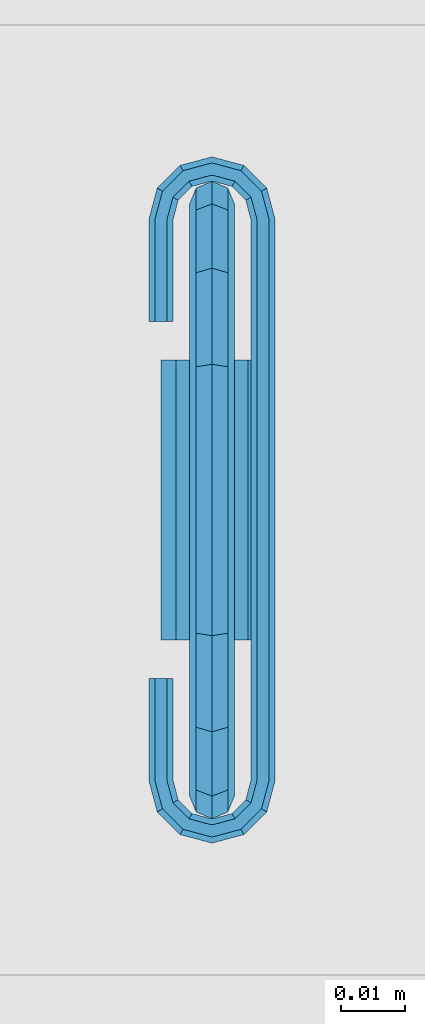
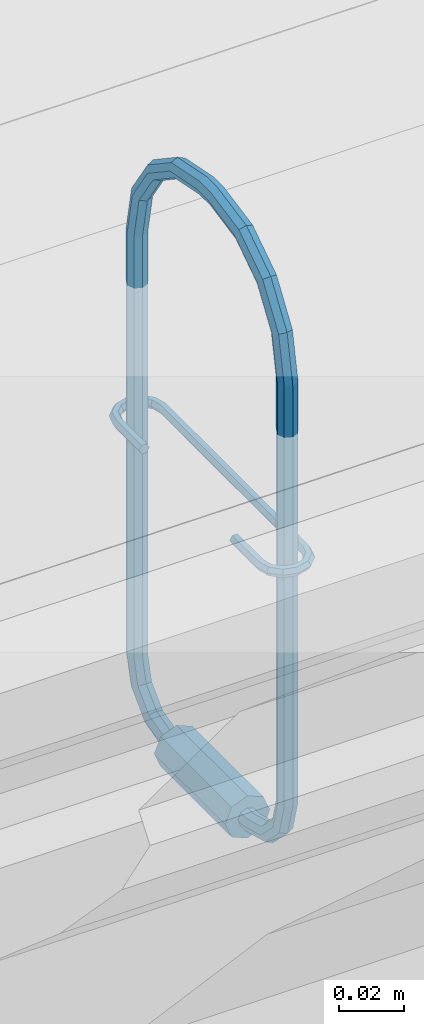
# One storey, part 169 of 230: 1 beam.
"""IFC4X3_ADD2 building model written with IfcOpenShell, lengths in millimetres."""

import ifcopenshell
import ifcopenshell.guid

model = None  # the IFC model being written
_history = None  # IfcOwnerHistory: only IFC2X3 demands one
_inside = {}  # id of a spatial element -> (the spatial element, [elements in it])
_under = {}  # id of a project, library or spatial element -> (it, [spatial elements below it])
_declared = {}  # id of a project -> (the project, [libraries it declares])
_typed = {}  # id of a type object -> (the type object, [elements of that type])
_made_of = {}  # id of a material, layer set ... -> (it, [elements and type objects made of it])


def new_model(schema):
    """Start an empty IFC model of exactly this schema.

    Asked for "IFC4X3", IfcOpenShell would pick the latest addendum, in which some entities
    have other attributes; the version numbers below select the first issue.
    IFC2X3 requires an IfcOwnerHistory on every rooted entity: one is made here for all.
    """
    global model, _history
    if schema == "IFC4X3":
        model = ifcopenshell.file(schema_version=(4, 3, 0, 0))
    else:
        model = ifcopenshell.file(schema=schema)
    _inside.clear()
    _under.clear()
    _declared.clear()
    _typed.clear()
    _made_of.clear()
    _history = None
    if model.schema == "IFC2X3":
        org = make("IfcOrganization", Name="unknown")
        user = make(
            "IfcPersonAndOrganization",
            ThePerson=make("IfcPerson", FamilyName="unknown"),
            TheOrganization=org,
        )
        app = make(
            "IfcApplication",
            ApplicationDeveloper=org,
            Version="unknown",
            ApplicationFullName="unknown",
            ApplicationIdentifier="unknown",
        )
        _history = make(
            "IfcOwnerHistory",
            OwningUser=user,
            OwningApplication=app,
            ChangeAction="ADDED",
            CreationDate=0,
        )
    return model


def make(cls, **values):
    """One entity of the class cls with the attributes given. An attribute that is None is left unset."""
    return model.create_entity(
        cls, **{name: value for name, value in values.items() if value is not None}
    )


def rooted(cls, **values):
    """An entity with a GlobalId (a new one), such as an element, a storey or a relation."""
    return make(cls, GlobalId=ifcopenshell.guid.new(), OwnerHistory=_history, **values)


def si_unit(unit_type, name, prefix=None):
    """IfcSIUnit, for example si_unit("LENGTHUNIT", "METRE", prefix="MILLI")."""
    return make("IfcSIUnit", UnitType=unit_type, Prefix=prefix, Name=name)


def assignment(units):
    """IfcUnitAssignment: the units of a project."""
    return None if units is None else make("IfcUnitAssignment", Units=units)


def point(xyz):
    """IfcCartesianPoint."""
    return None if xyz is None else make("IfcCartesianPoint", Coordinates=xyz)


def direction(xyz):
    """IfcDirection."""
    return None if xyz is None else make("IfcDirection", DirectionRatios=xyz)


def frame(location, z_axis=None, x_axis=None):
    """IfcAxis2Placement3D, a coordinate frame: its origin and axes. An axis left out is left unset."""
    return make(
        "IfcAxis2Placement3D",
        Location=point(location),
        Axis=direction(z_axis),
        RefDirection=direction(x_axis),
    )


def origin_with_axes():
    """The frame at (0, 0, 0) with the z axis (0, 0, 1) and the x axis (1, 0, 0) written out."""
    return frame((0.0, 0.0, 0.0), z_axis=(0.0, 0.0, 1.0), x_axis=(1.0, 0.0, 0.0))


def place(relative_to, where):
    """IfcLocalPlacement: puts the frame where relative to a parent placement (None: the world)."""
    return make(
        "IfcLocalPlacement", PlacementRelTo=relative_to, RelativePlacement=where
    )


def context(
    kind, dimensions, precision=None, world=None, true_north=None, identifier=None
):
    """IfcGeometricRepresentationContext, for example the 3D "Model" context."""
    return make(
        "IfcGeometricRepresentationContext",
        ContextIdentifier=identifier,
        ContextType=kind,
        CoordinateSpaceDimension=dimensions,
        Precision=precision,
        WorldCoordinateSystem=world,
        TrueNorth=true_north,
    )


def subcontext(parent, identifier, kind, view, scale=None):
    """IfcGeometricRepresentationSubContext, for example "Body" below "Model"."""
    return make(
        "IfcGeometricRepresentationSubContext",
        ContextIdentifier=identifier,
        ContextType=kind,
        ParentContext=parent,
        TargetScale=scale,
        TargetView=view,
    )


def project(units=None, contexts=None):
    """IfcProject with its units and contexts."""
    return rooted(
        "IfcProject",
        Name="project",
        RepresentationContexts=contexts,
        UnitsInContext=assignment(units),
    )


def spatial(cls, under=None, at=None, **own):
    """A site, building, storey or space (cls), placed at a placement, below another one or the project."""
    s = rooted(cls, ObjectPlacement=at, **own)
    if under is not None:
        _under.setdefault(under.id(), (under, []))[1].append(s)
    return s


def point_list(points):
    """IfcCartesianPointList2D or 3D."""
    cls = (
        "IfcCartesianPointList2D" if len(points[0]) == 2 else "IfcCartesianPointList3D"
    )
    return make(cls, CoordList=points)


def triangles(points, corners, closed=None, point_numbers=None):
    """IfcTriangulatedFaceSet: each triangle names its three corners, points numbered from 1."""
    return make(
        "IfcTriangulatedFaceSet",
        Coordinates=point_list(points),
        Closed=closed,
        CoordIndex=corners,
        PnIndex=point_numbers,
    )


def shape(context_of_items, identifier, shape_type, items):
    """IfcShapeRepresentation: the items that make up one representation, for example the "Body"."""
    return make(
        "IfcShapeRepresentation",
        ContextOfItems=context_of_items,
        RepresentationIdentifier=identifier,
        RepresentationType=shape_type,
        Items=items,
    )


def made_of(thing, what):
    """Note that an element or type object is made of a material, layer set ...; save() writes the relation."""
    if what is not None:
        _made_of.setdefault(what.id(), (what, []))[1].append(thing)
    return thing


def element(
    cls,
    number,
    at=None,
    inside=None,
    cuts=None,
    type_object=None,
    material=None,
    context=None,
    identifier="Body",
    shape_type=None,
    held_by="IfcProductDefinitionShape",
    body=None,
    shapes=None,
    **own,
):
    """One element of the class cls, such as IfcWall. Its Tag is "e" and its number.

    at: its placement. inside: the storey or other place that contains it. cuts: it is an
    opening in that element (IfcRelVoidsElement). A single representation is given by context,
    identifier, shape_type and body (its items); several are given by shapes. held_by: the class
    of the entity that holds the representations. save() writes the other relations.
    """
    e = rooted(cls, Tag="e%d" % number, ObjectPlacement=at, **own)
    if body is not None:
        shapes = [shape(context, identifier, shape_type, body)]
    if shapes is not None:
        e.Representation = make(held_by, Representations=shapes)
    if inside is not None:
        _inside.setdefault(inside.id(), (inside, []))[1].append(e)
    if cuts is not None:
        rooted(
            "IfcRelVoidsElement", RelatingBuildingElement=cuts, RelatedOpeningElement=e
        )
    if type_object is not None:
        _typed.setdefault(type_object.id(), (type_object, []))[1].append(e)
    return made_of(e, material)


def aggregate(whole, parts):
    """IfcRelAggregates: a whole, such as a stair, and the parts it consists of."""
    return rooted("IfcRelAggregates", RelatingObject=whole, RelatedObjects=parts)


def save(model, path):
    """Write the relations noted so far, then the file.

    IfcRelAggregates (storeys below a building ...), IfcRelContainedInSpatialStructure (elements
    in a storey), IfcRelDefinesByType, IfcRelAssociatesMaterial and IfcRelDeclares: one each for
    every whole, place, type object, material and project.
    """
    for whole, parts in _under.values():
        aggregate(whole, parts)
    for where, things in _inside.values():
        rooted(
            "IfcRelContainedInSpatialStructure",
            RelatedElements=things,
            RelatingStructure=where,
        )
    for kind, things in _typed.values():
        rooted("IfcRelDefinesByType", RelatedObjects=things, RelatingType=kind)
    for what, things in _made_of.values():
        rooted("IfcRelAssociatesMaterial", RelatedObjects=things, RelatingMaterial=what)
    for by, libraries in _declared.values():
        rooted("IfcRelDeclares", RelatingContext=by, RelatedDefinitions=libraries)
    model.write(path)


model = new_model("IFC4X3_ADD2")

# Units and contexts
model_context = context("Model", 3, precision=1e-05, world=origin_with_axes(), true_north=direction((0.0, 1.0)))
body_context = subcontext(model_context, "Body", "Model", "MODEL_VIEW")
ifc_project = project(units=[si_unit("LENGTHUNIT", "METRE", prefix="MILLI"), si_unit("AREAUNIT", "SQUARE_METRE"), si_unit("VOLUMEUNIT", "CUBIC_METRE"), si_unit("PLANEANGLEUNIT", "RADIAN"), si_unit("TIMEUNIT", "SECOND"), si_unit("MASSUNIT", "GRAM")], contexts=[model_context])

# Site, building, storey
site_placement = place(None, origin_with_axes())
site = spatial("IfcSite", under=ifc_project, at=site_placement, Name="Site", CompositionType="ELEMENT")
building_placement = place(site_placement, origin_with_axes())
building = spatial("IfcBuilding", under=site, at=building_placement, Name="IFC Building Story")
storey_placement = place(building_placement, origin_with_axes())
storey = spatial("IfcBuildingStorey", under=building, at=storey_placement, Name="ETAGE 00 (0)", Elevation=0.0)

# Beam
beam_placement = place(storey_placement, origin_with_axes())
element("IfcBeam", 1, at=beam_placement, inside=storey, Name="LU2", ObjectType="D7", context=body_context, shape_type="Tessellation", body=[
    triangles([(39353.16536865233, -1404.499736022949, 4036.025157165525), (39353.16536865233, -1407.999813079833, 4036.025157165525), (39350.6911010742, -1404.499736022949, 4034.999929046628), (39350.6911010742, -1407.999813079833, 4034.999929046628), (39354.1932128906, -1404.499736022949, 4038.500006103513), (39354.1932128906, -1407.999813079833, 4038.500006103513), (39353.16536865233, -1407.999813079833, 4040.974855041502), (39353.16536865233, -1404.499736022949, 4040.974855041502), (39350.6911010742, -1407.999813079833, 4042.000083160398), (39350.6911010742, -1404.499736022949, 4042.000083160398), (39348.21683349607, -1407.999813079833, 4040.974855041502), (39348.21683349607, -1404.499736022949, 4040.974855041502), (39347.1936401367, -1407.999813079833, 4038.500006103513), (39347.1936401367, -1404.499736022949, 4038.500006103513), (39348.21683349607, -1404.499736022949, 4036.025157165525), (39348.21683349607, -1407.999813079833, 4036.025157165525), (39350.6911010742, -1392.249757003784, 4038.282286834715), (39348.21683349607, -1392.762371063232, 4039.170023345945), (39350.6911010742, -1383.282135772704, 4047.250053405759), (39348.21683349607, -1384.169872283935, 4047.762522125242), (39353.16536865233, -1384.169872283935, 4047.762522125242), (39353.16536865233, -1392.762371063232, 4039.170023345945), (39354.1932128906, -1386.313200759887, 4048.999946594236), (39354.1932128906, -1393.999795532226, 4041.313497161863), (39353.16536865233, -1395.23722000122, 4043.456680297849), (39353.16536865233, -1388.456529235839, 4050.237371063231), (39350.6911010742, -1395.749688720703, 4044.34441680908), (39350.6911010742, -1389.34426574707, 4050.750130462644), (39348.21683349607, -1388.456529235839, 4050.237371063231), (39348.21683349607, -1395.23722000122, 4043.456680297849), (39347.1936401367, -1386.313200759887, 4048.999946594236), (39347.1936401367, -1393.999795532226, 4041.313497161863), (39348.21683349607, -1381.024860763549, 4059.499887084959), (39347.1936401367, -1383.499709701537, 4059.499887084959), (39350.6911010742, -1379.999777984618, 4059.499887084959), (39353.16536865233, -1381.024860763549, 4059.499887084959), (39354.1932128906, -1383.499709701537, 4059.499887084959), (39353.16536865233, -1385.974558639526, 4059.499887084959), (39350.6911010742, -1386.999786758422, 4059.499887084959), (39348.21683349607, -1385.974558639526, 4059.499887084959), (39348.21683349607, -1385.974558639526, 4218.50006561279), (39347.1936401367, -1383.499709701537, 4218.50006561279), (39348.21683349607, -1389.059399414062, 4234.008421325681), (39347.1936401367, -1386.772911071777, 4234.955456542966), (39348.21683349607, -1397.844182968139, 4247.155583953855), (39347.1936401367, -1396.094144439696, 4248.905477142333), (39348.21683349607, -1394.344105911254, 4250.65566101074), (39348.21683349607, -1384.486422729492, 4235.902491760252), (39350.6911010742, -1393.619295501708, 4251.38032608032), (39350.6911010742, -1383.539387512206, 4236.294909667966), (39353.16536865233, -1394.344105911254, 4250.65566101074), (39353.16536865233, -1384.486422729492, 4235.902491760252), (39354.1932128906, -1396.094144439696, 4248.905477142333), (39354.1932128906, -1386.772911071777, 4234.955456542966), (39353.16536865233, -1389.059399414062, 4234.008421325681), (39353.16536865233, -1397.844182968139, 4247.155583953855), (39350.6911010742, -1390.006579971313, 4233.616003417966), (39350.6911010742, -1398.568993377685, 4246.430628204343), (39350.6911010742, -1411.383763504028, 4254.993186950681), (39348.21683349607, -1410.991490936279, 4255.940222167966), (39347.1936401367, -1410.044310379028, 4258.226710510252), (39348.21683349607, -1409.097275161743, 4260.513198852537), (39350.6911010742, -1408.705002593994, 4261.460524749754), (39353.16536865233, -1409.097275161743, 4260.513198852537), (39354.1932128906, -1410.044310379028, 4258.226710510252), (39353.16536865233, -1410.991490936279, 4255.940222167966), (39353.16536865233, -1426.499701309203, 4259.025208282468), (39350.6911010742, -1426.499701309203, 4257.999980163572), (39348.21683349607, -1426.499701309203, 4259.025208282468), (39347.1936401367, -1426.499701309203, 4261.500057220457), (39348.21683349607, -1426.499701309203, 4263.974906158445), (39350.6911010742, -1426.499701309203, 4265.000134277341), (39353.16536865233, -1426.499701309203, 4263.974906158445), (39354.1932128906, -1426.499701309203, 4261.500057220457), (39354.1932128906, -1433.499710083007, 4261.500057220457), (39353.16536865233, -1433.499710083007, 4259.025208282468), (39354.1932128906, -1449.955101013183, 4258.226710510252), (39353.16536865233, -1449.008065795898, 4255.940222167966), (39354.1932128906, -1463.90541229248, 4248.905477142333), (39353.16536865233, -1462.155373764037, 4247.155583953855), (39350.6911010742, -1448.615793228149, 4254.993186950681), (39350.6911010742, -1461.430418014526, 4246.430628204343), (39348.21683349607, -1462.155373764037, 4247.155583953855), (39348.21683349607, -1449.008065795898, 4255.940222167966), (39347.1936401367, -1463.90541229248, 4248.905477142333), (39347.1936401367, -1449.955101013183, 4258.226710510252), (39348.21683349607, -1465.655305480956, 4250.65566101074), (39348.21683349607, -1450.902281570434, 4260.513198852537), (39350.6911010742, -1466.380261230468, 4251.38032608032), (39350.6911010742, -1451.294554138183, 4261.460524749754), (39353.16536865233, -1465.655305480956, 4250.65566101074), (39353.16536865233, -1450.902281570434, 4260.513198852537), (39354.1932128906, -1473.226500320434, 4234.955456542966), (39353.16536865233, -1475.512988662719, 4235.902491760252), (39353.16536865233, -1470.940157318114, 4234.008421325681), (39350.6911010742, -1469.992976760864, 4233.616003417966), (39348.21683349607, -1470.940157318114, 4234.008421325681), (39347.1936401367, -1473.226500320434, 4234.955456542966), (39348.21683349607, -1475.512988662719, 4235.902491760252), (39350.6911010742, -1476.46016921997, 4236.294909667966), (39353.16536865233, -1478.974695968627, 4218.50006561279), (39350.6911010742, -1479.999778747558, 4218.50006561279), (39354.1932128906, -1476.499701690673, 4218.50006561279), (39353.16536865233, -1474.024852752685, 4218.50006561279), (39350.6911010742, -1472.999769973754, 4218.50006561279), (39348.21683349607, -1474.024852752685, 4218.50006561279), (39347.1936401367, -1476.499701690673, 4218.50006561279), (39348.21683349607, -1478.974695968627, 4218.50006561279), (39350.6911010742, -1479.999778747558, 4059.499887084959), (39348.21683349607, -1478.974695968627, 4059.499887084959), (39350.6911010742, -1476.717420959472, 4047.250053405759), (39348.21683349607, -1475.829539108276, 4047.762522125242), (39350.6911010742, -1467.749799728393, 4038.282286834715), (39348.21683349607, -1467.237185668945, 4039.170023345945), (39353.16536865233, -1467.237185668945, 4039.170023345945), (39353.16536865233, -1475.829539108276, 4047.762522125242), (39354.1932128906, -1465.999761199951, 4041.313497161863), (39354.1932128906, -1473.686355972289, 4048.999946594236), (39353.16536865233, -1471.543027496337, 4050.237371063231), (39353.16536865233, -1464.762336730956, 4043.456680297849), (39350.6911010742, -1470.655145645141, 4050.750130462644), (39350.6911010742, -1464.249722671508, 4044.34441680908), (39348.21683349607, -1464.762336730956, 4043.456680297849), (39348.21683349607, -1471.543027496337, 4050.237371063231), (39347.1936401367, -1465.999761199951, 4041.313497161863), (39347.1936401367, -1473.686355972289, 4048.999946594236), (39348.21683349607, -1455.499820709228, 4036.025157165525), (39347.1936401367, -1455.499820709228, 4038.500006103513), (39350.6911010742, -1455.499820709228, 4034.999929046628), (39353.16536865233, -1455.499820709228, 4036.025157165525), (39354.1932128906, -1455.499820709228, 4038.500006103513), (39353.16536865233, -1455.499820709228, 4040.974855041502), (39350.6911010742, -1455.499820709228, 4042.000083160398), (39348.21683349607, -1455.499820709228, 4040.974855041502), (39348.21683349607, -1451.999743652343, 4040.974855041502), (39347.1936401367, -1451.999743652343, 4038.500006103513), (39350.6911010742, -1451.999743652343, 4042.000083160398), (39353.16536865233, -1451.999743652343, 4040.974855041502), (39354.1932128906, -1451.999743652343, 4038.500006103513), (39353.16536865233, -1451.999743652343, 4036.025157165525), (39350.6911010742, -1451.999743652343, 4034.999929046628), (39348.21683349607, -1451.999743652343, 4036.025157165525), (39358.69061279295, -1451.999743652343, 4038.500006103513), (39350.6911010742, -1451.999743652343, 4046.500099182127), (39345.0356323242, -1451.999743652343, 4044.156928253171), (39342.69158935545, -1451.999743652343, 4038.500006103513), (39356.3512207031, -1451.999743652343, 4044.156928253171), (39345.0356323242, -1451.999743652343, 4032.843083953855), (39350.6911010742, -1451.999743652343, 4030.4999130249), (39356.3512207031, -1451.999743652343, 4032.843083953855), (39356.3512207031, -1407.999813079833, 4032.843083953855), (39350.6911010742, -1407.999813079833, 4030.4999130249), (39358.69061279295, -1407.999813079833, 4038.500006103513), (39356.3512207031, -1407.999813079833, 4044.156928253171), (39350.6911010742, -1407.999813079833, 4046.500099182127), (39345.0356323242, -1407.999813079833, 4044.156928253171), (39342.69158935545, -1407.999813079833, 4038.500006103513), (39345.0356323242, -1407.999813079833, 4032.843083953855), (39347.1936401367, -1476.499701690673, 4059.499887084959), (39348.21683349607, -1474.024852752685, 4059.499887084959), (39350.6911010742, -1472.999769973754, 4059.499887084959), (39353.16536865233, -1474.024852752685, 4059.499887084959), (39354.1932128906, -1476.499701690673, 4059.499887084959), (39353.16536865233, -1478.974695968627, 4059.499887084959), (39353.16536865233, -1433.499710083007, 4263.974906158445), (39350.6911010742, -1433.499710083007, 4265.000134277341), (39348.21683349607, -1433.499710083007, 4263.974906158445), (39347.1936401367, -1433.499710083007, 4261.500057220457), (39348.21683349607, -1433.499710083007, 4259.025208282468), (39350.6911010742, -1433.499710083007, 4257.999980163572), (39350.6911010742, -1386.999786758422, 4218.50006561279), (39353.16536865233, -1385.974558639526, 4218.50006561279), (39354.1932128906, -1383.499709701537, 4218.50006561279), (39353.16536865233, -1381.024860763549, 4218.50006561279), (39350.6911010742, -1379.999777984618, 4218.50006561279), (39348.21683349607, -1381.024860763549, 4218.50006561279), (39344.59379882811, -1385.939822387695, 4149.999886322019), (39344.59379882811, -1401.999743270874, 4149.999886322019), (39343.64036865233, -1385.939822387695, 4148.354637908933), (39343.64036865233, -1401.999743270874, 4148.354637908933), (39345.38909912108, -1382.969800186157, 4149.999886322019), (39344.56589355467, -1382.49468383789, 4148.354637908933), (39347.08666992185, -1379.972890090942, 4148.354637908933), (39347.5610595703, -1380.795514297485, 4149.999886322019), (39347.08666992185, -1379.972890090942, 4151.645425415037), (39344.56589355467, -1382.49468383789, 4151.645425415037), (39350.53297119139, -1379.049690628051, 4151.645425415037), (39350.53297119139, -1377.149806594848, 4151.645425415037), (39346.13789062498, -1378.327350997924, 4151.645425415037), (39341.74281005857, -1474.059734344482, 4151.645425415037), (39344.56589355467, -1477.504727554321, 4151.645425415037), (39343.64036865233, -1474.059734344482, 4151.645425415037), (39341.74281005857, -1457.999813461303, 4151.645425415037), (39342.91948242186, -1478.454814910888, 4151.645425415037), (39343.64036865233, -1457.999813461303, 4151.645425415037), (39346.13789062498, -1481.672060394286, 4151.645425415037), (39350.53297119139, -1480.94972076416, 4151.645425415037), (39347.08666992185, -1480.026666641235, 4151.645425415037), (39350.53297119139, -1482.849750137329, 4151.645425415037), (39341.74281005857, -1385.939822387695, 4151.645425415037), (39342.91948242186, -1381.544741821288, 4151.645425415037), (39341.74281005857, -1401.999743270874, 4151.645425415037), (39343.64036865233, -1385.939822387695, 4151.645425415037), (39343.64036865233, -1401.999743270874, 4151.645425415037), (39354.29553222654, -1480.026666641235, 4151.645425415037), (39355.24896240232, -1481.672060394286, 4151.645425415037), (39358.46271972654, -1478.454814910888, 4151.645425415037), (39350.85388183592, -1482.849750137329, 4151.645425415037), (39350.85388183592, -1480.94972076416, 4151.645425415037), (39356.82095947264, -1477.504727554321, 4151.645425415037), (39359.64404296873, -1474.059734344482, 4151.645425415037), (39357.74183349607, -1474.059734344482, 4151.645425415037), (39357.74183349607, -1385.939822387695, 4151.645425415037), (39355.24896240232, -1378.327350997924, 4151.645425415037), (39354.29553222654, -1379.972890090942, 4151.645425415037), (39358.46271972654, -1381.544741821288, 4151.645425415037), (39350.85388183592, -1377.149806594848, 4151.645425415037), (39350.85388183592, -1379.049690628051, 4151.645425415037), (39359.64404296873, -1385.939822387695, 4151.645425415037), (39356.82095947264, -1382.49468383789, 4151.645425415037), (39341.74281005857, -1457.999813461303, 4148.354637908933), (39343.64036865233, -1457.999813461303, 4148.354637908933), (39344.59379882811, -1457.999813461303, 4149.999886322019), (39340.7940307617, -1457.999813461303, 4149.999886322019), (39344.59379882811, -1474.059734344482, 4149.999886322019), (39343.64036865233, -1474.059734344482, 4148.354637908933), (39346.13789062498, -1481.672060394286, 4148.354637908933), (39350.53297119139, -1480.94972076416, 4148.354637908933), (39350.53297119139, -1482.849750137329, 4148.354637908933), (39341.74281005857, -1385.939822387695, 4148.354637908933), (39341.74281005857, -1401.999743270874, 4148.354637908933), (39342.91948242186, -1381.544741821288, 4148.354637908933), (39346.13789062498, -1378.327350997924, 4148.354637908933), (39350.53297119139, -1379.049690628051, 4148.354637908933), (39350.53297119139, -1377.149806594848, 4148.354637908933), (39341.74281005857, -1474.059734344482, 4148.354637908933), (39344.56589355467, -1477.504727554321, 4148.354637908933), (39342.91948242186, -1478.454814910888, 4148.354637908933), (39347.08666992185, -1480.026666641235, 4148.354637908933), (39354.29553222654, -1379.972890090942, 4148.354637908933), (39355.24896240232, -1378.327350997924, 4148.354637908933), (39358.46271972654, -1381.544741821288, 4148.354637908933), (39350.85388183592, -1377.149806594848, 4148.354637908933), (39350.85388183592, -1379.049690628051, 4148.354637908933), (39356.82095947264, -1382.49468383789, 4148.354637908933), (39359.64404296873, -1385.939822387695, 4148.354637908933), (39357.74183349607, -1385.939822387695, 4148.354637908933), (39357.74183349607, -1474.059734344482, 4148.354637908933), (39355.24896240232, -1481.672060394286, 4148.354637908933), (39354.29553222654, -1480.026666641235, 4148.354637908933), (39358.46271972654, -1478.454814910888, 4148.354637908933), (39350.85388183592, -1482.849750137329, 4148.354637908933), (39350.85388183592, -1480.94972076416, 4148.354637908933), (39359.64404296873, -1474.059734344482, 4148.354637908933), (39356.82095947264, -1477.504727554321, 4148.354637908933), (39340.7940307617, -1474.059734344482, 4149.999886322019), (39342.09627685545, -1478.929785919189, 4149.999886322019), (39345.66350097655, -1482.494829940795, 4149.999886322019), (39350.53297119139, -1483.79969215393, 4149.999886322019), (39350.85388183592, -1483.79969215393, 4149.999886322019), (39355.72335205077, -1482.494829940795, 4149.999886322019), (39359.28592529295, -1478.929785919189, 4149.999886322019), (39360.59282226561, -1474.059734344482, 4149.999886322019), (39360.59282226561, -1385.939822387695, 4149.999886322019), (39359.28592529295, -1381.069770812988, 4149.999886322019), (39355.72335205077, -1377.504726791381, 4149.999886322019), (39350.85388183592, -1376.199719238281, 4149.999886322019), (39350.53297119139, -1376.199719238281, 4149.999886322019), (39345.66350097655, -1377.504726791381, 4149.999886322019), (39342.09627685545, -1381.069770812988, 4149.999886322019), (39340.7940307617, -1385.939822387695, 4149.999886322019), (39340.7940307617, -1401.999743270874, 4149.999886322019), (39350.53297119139, -1379.999777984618, 4149.999886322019), (39350.85388183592, -1379.999777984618, 4149.999886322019), (39353.8211425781, -1380.795514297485, 4149.999886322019), (39355.99775390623, -1382.969800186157, 4149.999886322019), (39356.7930541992, -1385.939822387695, 4149.999886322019), (39356.7930541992, -1474.059734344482, 4149.999886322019), (39355.99775390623, -1477.02975654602, 4149.999886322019), (39353.8211425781, -1479.203897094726, 4149.999886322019), (39350.85388183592, -1479.999778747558, 4149.999886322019), (39350.53297119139, -1479.999778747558, 4149.999886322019), (39347.5610595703, -1479.203897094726, 4149.999886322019), (39345.38909912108, -1477.02975654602, 4149.999886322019)], [[1, 2, 3], [4, 3, 2], [5, 6, 1], [2, 1, 6], [6, 5, 7], [8, 7, 5], [7, 8, 9], [10, 9, 8], [9, 10, 11], [12, 11, 10], [11, 12, 13], [14, 13, 12], [15, 16, 14], [13, 14, 16], [3, 4, 15], [16, 15, 4], [17, 3, 18], [15, 18, 3], [19, 17, 20], [18, 20, 17], [21, 22, 17], [17, 19, 21], [23, 24, 22], [22, 21, 23], [24, 23, 25], [26, 25, 23], [25, 26, 27], [28, 27, 26], [27, 28, 29], [29, 30, 27], [30, 29, 31], [31, 32, 30], [20, 18, 31], [32, 31, 18], [33, 20, 34], [31, 34, 20], [35, 19, 33], [20, 33, 19], [36, 21, 19], [19, 35, 36], [37, 23, 21], [21, 36, 37], [23, 37, 26], [38, 26, 37], [26, 38, 28], [39, 28, 38], [28, 39, 40], [40, 29, 28], [29, 40, 34], [34, 31, 29], [40, 41, 42], [42, 34, 40], [41, 43, 44], [44, 42, 41], [43, 45, 46], [46, 44, 43], [47, 48, 46], [44, 46, 48], [49, 50, 47], [48, 47, 50], [51, 52, 50], [50, 49, 51], [53, 54, 52], [52, 51, 53], [54, 53, 55], [56, 55, 53], [55, 56, 57], [58, 57, 56], [57, 58, 45], [45, 43, 57], [58, 59, 60], [60, 45, 58], [45, 60, 61], [61, 46, 45], [62, 47, 61], [46, 61, 47], [63, 49, 62], [47, 62, 49], [64, 51, 49], [49, 63, 64], [65, 53, 51], [51, 64, 65], [53, 65, 56], [66, 56, 65], [56, 66, 58], [59, 58, 66], [66, 67, 59], [68, 59, 67], [59, 68, 69], [69, 60, 59], [60, 69, 70], [70, 61, 60], [71, 62, 70], [61, 70, 62], [72, 63, 71], [62, 71, 63], [73, 64, 63], [63, 72, 73], [74, 65, 64], [64, 73, 74], [65, 74, 66], [67, 66, 74], [74, 75, 67], [76, 67, 75], [75, 77, 76], [78, 76, 77], [77, 79, 78], [80, 78, 79], [78, 80, 81], [82, 81, 80], [81, 82, 83], [83, 84, 81], [84, 83, 85], [85, 86, 84], [87, 88, 85], [86, 85, 88], [89, 90, 87], [88, 87, 90], [91, 92, 90], [90, 89, 91], [79, 77, 92], [92, 91, 79], [93, 79, 91], [91, 94, 93], [79, 93, 80], [95, 80, 93], [80, 95, 82], [96, 82, 95], [82, 96, 97], [97, 83, 82], [83, 97, 98], [98, 85, 83], [99, 87, 98], [85, 98, 87], [100, 89, 99], [87, 99, 89], [94, 91, 89], [89, 100, 94], [101, 94, 100], [100, 102, 101], [103, 93, 94], [94, 101, 103], [93, 103, 95], [104, 95, 103], [95, 104, 96], [105, 96, 104], [96, 105, 106], [106, 97, 96], [97, 106, 107], [107, 98, 97], [108, 99, 107], [98, 107, 99], [102, 100, 108], [99, 108, 100], [109, 102, 110], [108, 110, 102], [111, 109, 112], [110, 112, 109], [113, 111, 114], [112, 114, 111], [115, 116, 111], [111, 113, 115], [117, 118, 116], [116, 115, 117], [118, 117, 119], [120, 119, 117], [119, 120, 121], [122, 121, 120], [121, 122, 123], [123, 124, 121], [124, 123, 125], [125, 126, 124], [114, 112, 125], [126, 125, 112], [127, 114, 128], [125, 128, 114], [129, 113, 127], [114, 127, 113], [130, 115, 113], [113, 129, 130], [131, 117, 115], [115, 130, 131], [117, 131, 120], [132, 120, 131], [120, 132, 122], [133, 122, 132], [122, 133, 134], [134, 123, 122], [123, 134, 128], [128, 125, 123], [134, 135, 136], [136, 128, 134], [133, 137, 134], [135, 134, 137], [132, 138, 137], [137, 133, 132], [131, 139, 132], [138, 132, 139], [139, 131, 130], [130, 140, 139], [140, 130, 141], [129, 141, 130], [141, 129, 127], [127, 142, 141], [142, 127, 136], [128, 136, 127], [138, 139, 143], [135, 137, 144], [144, 145, 135], [146, 136, 135], [146, 135, 145], [147, 137, 138], [137, 147, 144], [138, 143, 147], [148, 136, 146], [142, 149, 141], [142, 136, 148], [148, 149, 142], [150, 143, 139], [139, 140, 150], [141, 150, 140], [150, 141, 149], [151, 150, 152], [149, 152, 150], [153, 143, 151], [150, 151, 143], [143, 153, 147], [154, 147, 153], [147, 154, 144], [155, 144, 154], [144, 155, 145], [156, 145, 155], [145, 156, 146], [157, 146, 156], [158, 148, 157], [146, 157, 148], [152, 149, 158], [148, 158, 149], [11, 13, 157], [7, 9, 155], [155, 154, 7], [153, 6, 7], [153, 7, 154], [156, 9, 11], [9, 156, 155], [11, 157, 156], [151, 6, 153], [2, 152, 4], [2, 6, 151], [151, 152, 2], [158, 157, 13], [13, 16, 158], [4, 158, 16], [158, 4, 152], [112, 110, 126], [159, 126, 110], [160, 124, 126], [126, 159, 160], [161, 121, 124], [124, 160, 161], [162, 119, 161], [121, 161, 119], [163, 118, 162], [119, 162, 118], [118, 163, 164], [164, 116, 118], [116, 164, 109], [109, 111, 116], [164, 101, 102], [102, 109, 164], [163, 103, 164], [101, 164, 103], [103, 163, 104], [162, 104, 163], [104, 162, 105], [161, 105, 162], [105, 161, 160], [160, 106, 105], [106, 160, 159], [159, 107, 106], [110, 108, 107], [107, 159, 110], [77, 75, 165], [165, 92, 77], [92, 165, 166], [166, 90, 92], [90, 166, 88], [167, 88, 166], [88, 167, 86], [168, 86, 167], [169, 84, 86], [86, 168, 169], [170, 81, 84], [84, 169, 170], [76, 78, 170], [81, 170, 78], [67, 76, 68], [170, 68, 76], [68, 170, 169], [169, 69, 68], [69, 169, 168], [168, 70, 69], [167, 71, 70], [70, 168, 167], [166, 72, 71], [71, 167, 166], [165, 73, 166], [72, 166, 73], [75, 74, 165], [73, 165, 74], [171, 57, 43], [43, 41, 171], [172, 55, 171], [57, 171, 55], [173, 54, 172], [55, 172, 54], [54, 173, 174], [174, 52, 54], [52, 174, 175], [175, 50, 52], [50, 175, 48], [176, 48, 175], [48, 176, 44], [42, 44, 176], [176, 33, 34], [34, 42, 176], [175, 35, 176], [33, 176, 35], [174, 36, 35], [35, 175, 174], [173, 37, 174], [36, 174, 37], [37, 173, 38], [172, 38, 173], [38, 172, 39], [171, 39, 172], [39, 171, 41], [41, 40, 39], [18, 15, 32], [14, 32, 15], [12, 30, 32], [32, 14, 12], [10, 27, 30], [30, 12, 10], [8, 25, 10], [27, 10, 25], [5, 24, 8], [25, 8, 24], [24, 5, 1], [1, 22, 24], [22, 1, 3], [3, 17, 22], [177, 178, 179], [180, 179, 178], [181, 177, 179], [179, 182, 181], [183, 184, 181], [181, 182, 183], [184, 185, 181], [186, 181, 185], [187, 188, 189], [190, 191, 192], [190, 192, 193], [190, 194, 191], [195, 193, 192], [196, 197, 198], [198, 191, 194], [199, 197, 196], [196, 198, 194], [200, 186, 201], [202, 203, 200], [204, 203, 202], [200, 203, 186], [185, 189, 201], [201, 186, 185], [189, 185, 187], [205, 206, 207], [197, 199, 208], [208, 209, 197], [209, 206, 205], [206, 209, 208], [210, 207, 211], [207, 210, 205], [212, 211, 213], [211, 212, 210], [214, 215, 216], [217, 188, 187], [187, 218, 217], [218, 215, 214], [214, 217, 218], [213, 219, 220], [219, 213, 211], [220, 216, 215], [216, 220, 219], [195, 221, 193], [222, 195, 223], [193, 221, 224], [195, 222, 221], [223, 225, 226], [226, 222, 223], [227, 228, 229], [230, 182, 179], [230, 179, 231], [230, 232, 182], [180, 231, 179], [233, 234, 183], [183, 182, 232], [235, 234, 233], [233, 183, 232], [236, 237, 238], [221, 226, 236], [222, 226, 221], [236, 226, 237], [239, 227, 238], [238, 237, 239], [227, 239, 228], [240, 241, 242], [243, 234, 235], [243, 244, 234], [244, 243, 241], [240, 244, 241], [245, 242, 246], [242, 245, 240], [247, 246, 248], [246, 247, 245], [249, 250, 251], [252, 229, 228], [228, 253, 252], [253, 250, 249], [249, 252, 253], [248, 254, 255], [254, 248, 246], [255, 251, 250], [251, 255, 254], [221, 236, 256], [256, 224, 221], [190, 193, 256], [224, 256, 193], [257, 194, 256], [190, 256, 194], [238, 257, 256], [256, 236, 238], [227, 258, 238], [257, 238, 258], [258, 196, 194], [194, 257, 258], [259, 199, 196], [196, 258, 259], [260, 208, 259], [199, 259, 208], [261, 206, 260], [208, 260, 206], [249, 261, 260], [260, 252, 249], [252, 260, 259], [259, 229, 252], [229, 259, 227], [258, 227, 259], [251, 262, 261], [261, 249, 251], [262, 207, 261], [206, 261, 207], [263, 211, 207], [207, 262, 263], [263, 264, 211], [219, 211, 264], [219, 264, 216], [265, 216, 264], [264, 246, 242], [242, 265, 264], [264, 263, 254], [254, 246, 264], [254, 263, 251], [262, 251, 263], [265, 242, 266], [241, 266, 242], [216, 265, 266], [266, 214, 216], [214, 266, 267], [267, 217, 214], [217, 267, 268], [268, 188, 217], [188, 268, 189], [269, 189, 268], [268, 235, 233], [233, 269, 268], [267, 243, 268], [235, 268, 243], [266, 241, 267], [243, 267, 241], [269, 233, 232], [232, 270, 269], [189, 269, 201], [270, 201, 269], [201, 270, 271], [271, 200, 201], [202, 200, 272], [271, 272, 200], [202, 180, 204], [231, 202, 272], [204, 180, 178], [202, 231, 180], [230, 231, 271], [272, 271, 231], [270, 232, 271], [230, 271, 232], [178, 177, 203], [203, 204, 178], [177, 181, 203], [186, 203, 181], [234, 273, 184], [184, 183, 234], [273, 187, 184], [185, 184, 187], [274, 218, 273], [187, 273, 218], [275, 215, 218], [218, 274, 275], [276, 220, 215], [215, 275, 276], [213, 220, 276], [276, 277, 213], [212, 213, 277], [277, 278, 212], [210, 212, 279], [278, 279, 212], [210, 279, 205], [280, 205, 279], [205, 280, 209], [281, 209, 280], [209, 281, 197], [282, 197, 281], [197, 282, 283], [283, 198, 197], [198, 283, 284], [284, 191, 198], [284, 225, 192], [192, 191, 284], [225, 223, 192], [195, 192, 223], [225, 284, 226], [237, 226, 284], [283, 239, 284], [237, 284, 239], [282, 228, 283], [239, 283, 228], [281, 253, 228], [228, 282, 281], [280, 250, 253], [253, 281, 280], [279, 255, 250], [250, 280, 279], [248, 255, 279], [279, 278, 248], [247, 248, 277], [278, 277, 248], [245, 247, 276], [277, 276, 247], [245, 276, 240], [275, 240, 276], [240, 275, 244], [274, 244, 275], [244, 274, 273], [273, 234, 244]]),
])

save(model, "model.ifc")
